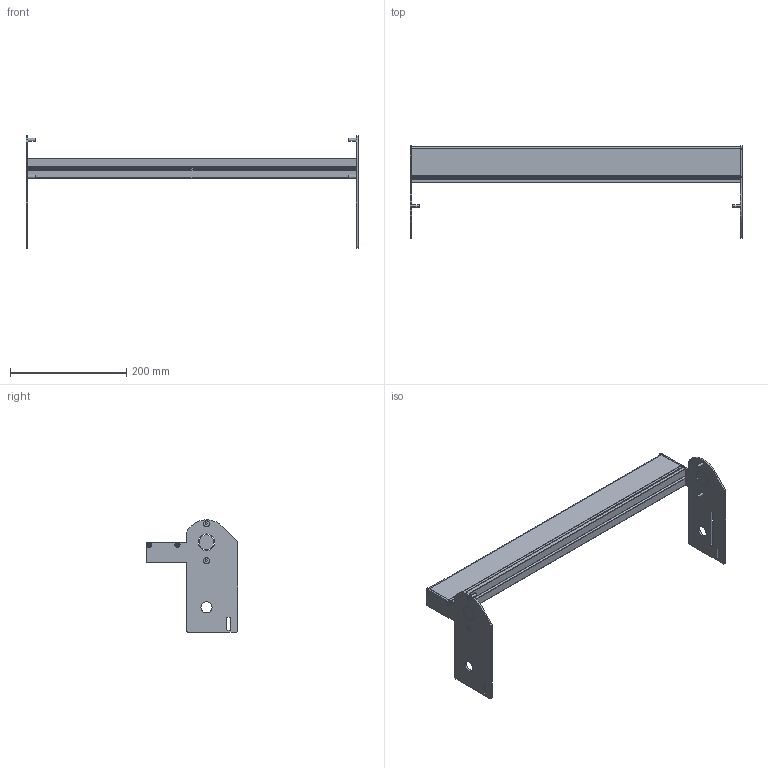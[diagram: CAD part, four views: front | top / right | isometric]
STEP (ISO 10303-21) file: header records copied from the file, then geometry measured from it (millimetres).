
FILE_DESCRIPTION((''),'2;1');
FILE_NAME('350712-22_ASM','2023-03-22T',('jenni.wallner'),(''),'PRO/ENGINEER BY PARAMETRIC TECHNOLOGY CORPORATION, 2012420','PRO/ENGINEER BY PARAMETRIC TECHNOLOGY CORPORATION, 2012420','');
FILE_SCHEMA(('CONFIG_CONTROL_DESIGN'));
Length unit declared in the file: inch
Products named in the file (6): 350669-22; 350667; 350668; 930412M; 930516M; 350712-22_ASM
Assembly tree (11 placements, depth 2):
  350712-22_ASM
    350669-22
    350667
    350668
    930412M  x4
    930516M  x4
Bounding box: 571.14 x 158.09 x 193.27 mm (x, y, z)
Volume: 558677.1 mm3; surface area: 366244.1 mm2
Topology: 11 solids, 11 shells, 334 faces, 872 edges, 568 vertices
Faces by surface type: plane 150, cylinder 136, cone 48
Entity records: 7773 total; most frequent: DIRECTION 1398, CARTESIAN_POINT 1317, ORIENTED_EDGE 1288, EDGE_CURVE 644, AXIS2_PLACEMENT_3D 505, VERTEX_POINT 424, VECTOR 388, LINE 388
